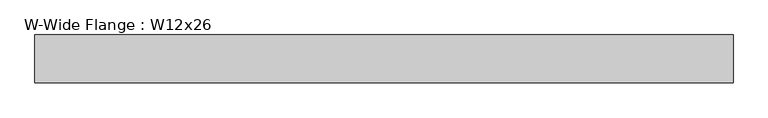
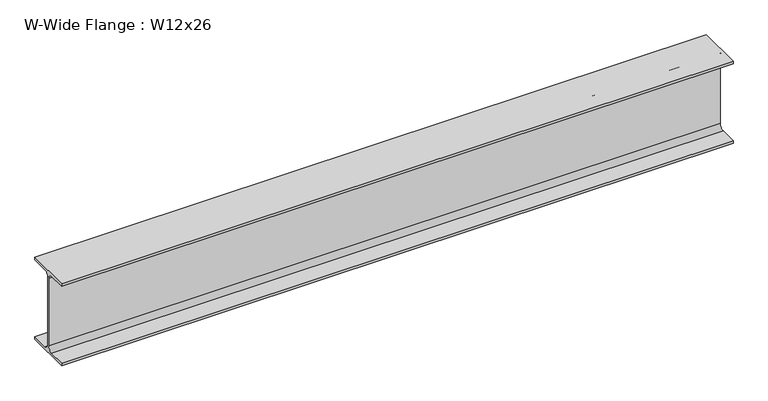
"""IFC4 building model written with IfcOpenShell, lengths in millimetres: beam geometry, W-Wide Flange : W12x26."""

from ifc_helpers import new_model, si_unit, point, frame, frame_2d, origin, place, context, project, spatial, polyline, circle_curve, trimmed, segment, composite_curve, outline, extrude, source, transform, mapped, element, save


def w_wide_flange_w12x26_59dcab40(model_context):
    return source(origin(), model_context, "Body", "SweptSolid", [
        extrude(outline(composite_curve([segment(polyline([(82.423, -145.288), (82.423, -154.94), (-82.423, -154.94), (-82.423, -145.288), (-20.2565, -145.288)]), True, "CONTINUOUS"), segment(trimmed(circle_curve(frame_2d((-20.2565, -127.9525)), 17.3355), [point((-20.2565, -145.288))], [point((-2.921, -127.9525))], True, "CARTESIAN"), True, "CONTINUOUS"), segment(polyline([(-2.921, -127.9525), (-2.921, 127.9525)]), True, "CONTINUOUS"), segment(trimmed(circle_curve(frame_2d((-20.2565, 127.9525)), 17.3355), [point((-2.921, 127.9525))], [point((-20.2565, 145.288))], True, "CARTESIAN"), True, "CONTINUOUS"), segment(polyline([(-20.2565, 145.288), (-82.423, 145.288), (-82.423, 154.94), (82.423, 154.94), (82.423, 145.288), (20.2565, 145.288)]), True, "CONTINUOUS"), segment(trimmed(circle_curve(frame_2d((20.2565, 127.9525)), 17.3355), [point((20.2565, 145.288))], [point((2.921, 127.9525))], True, "CARTESIAN"), True, "CONTINUOUS"), segment(polyline([(2.921, 127.9525), (2.921, -127.9525)]), True, "CONTINUOUS"), segment(trimmed(circle_curve(frame_2d((20.2565, -127.9525)), 17.3355), [point((2.921, -127.9525))], [point((20.2565, -145.288))], True, "CARTESIAN"), True, "CONTINUOUS"), segment(polyline([(20.2565, -145.288), (82.423, -145.288)]), True, "CONTINUOUS")], self_intersect=False)), frame((-1079.5, 0.0, 0.0), z_axis=(1.0, 0.0, 0.0), x_axis=(0.0, 1.0, 0.0)), (0.0, 0.0, 1.0), 2400.3),
    ])


if __name__ == "__main__":
    model = new_model("IFC4")
    model_context = context("Model", 3, world=origin())
    ifc_project = project(units=[si_unit("LENGTHUNIT", "METRE", prefix="MILLI")], contexts=[model_context])
    site = spatial("IfcSite", under=ifc_project)
    building = spatial("IfcBuilding", under=site)
    placement = place(None, origin())
    w_wide_flange_w12x26_shape = w_wide_flange_w12x26_59dcab40(model_context)
    element("IfcBeam", 1, ObjectType="W-Wide Flange : W12x26", at=placement, inside=building, context=model_context, shape_type="MappedRepresentation", body=[
        mapped(w_wide_flange_w12x26_shape, transform((0.0, 0.0, 0.0), x_axis=(1.0, 0.0, 0.0), y_axis=(0.0, 1.0, 0.0), z_axis=(0.0, 0.0, 1.0))),
    ])
    save(model, "model.ifc")
